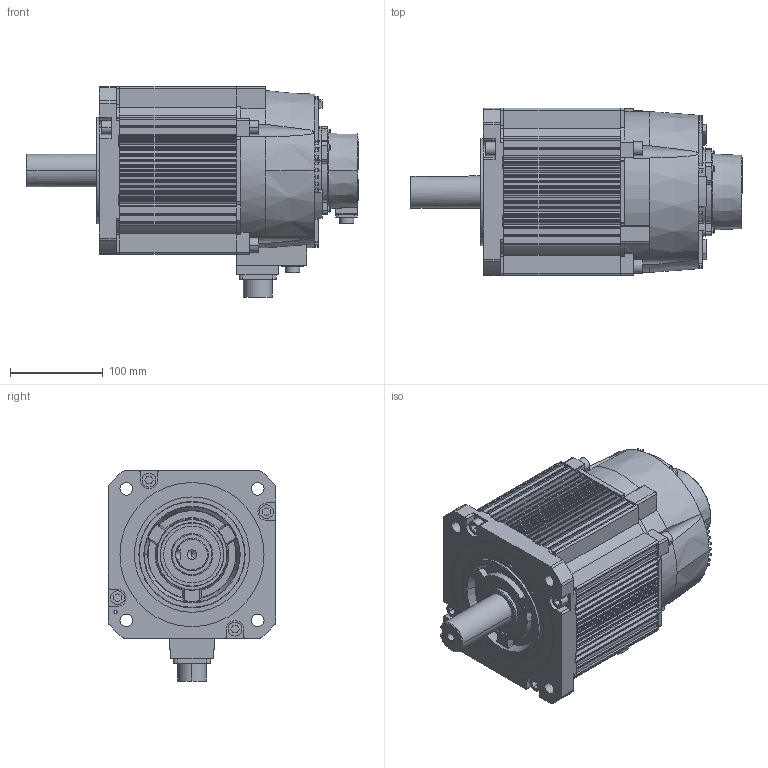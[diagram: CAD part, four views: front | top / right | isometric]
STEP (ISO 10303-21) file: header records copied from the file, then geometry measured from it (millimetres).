
FILE_DESCRIPTION (( 'STEP AP203' ), '1' );
FILE_NAME ('28415.STEP', '2024-09-05T10:59:59', ( '' ), ( '' ), 'SwSTEP 2.0', 'SolidWorks 2018', '' );
FILE_SCHEMA (( 'CONFIG_CONTROL_DESIGN' ));
Length unit declared in the file: millimetre
Products named in the file (10): 28.4N.M儂褲 - 萵掛 (2) - 萵掛; SC-CMV1-R10P-E; 惕掅綴裔; CMS3102A22-22P-Z; SC-CMV1-R2P-E; 18.6,28.4N.M蛌粣; 蚐猾; 橈勤硉晤鎢ん誘欶  S13E.10-01; ヶ裔; 28415
Assembly tree (9 placements, depth 2):
  28415
    18.6,28.4N.M蛌粣
    CMS3102A22-22P-Z
    SC-CMV1-R10P-E
    SC-CMV1-R2P-E
    惕掅綴裔
    ヶ裔
    蚐猾
    28.4N.M儂褲 - 萵掛 (2) - 萵掛
    橈勤硉晤鎢ん誘欶  S13E.10-01
Bounding box: 357 x 180 x 226 mm (x, y, z)
Volume: 2769296.9 mm3; surface area: 628541.4 mm2
Topology: 9 solids, 13 shells, 1856 faces, 5050 edges, 3276 vertices
Faces by surface type: plane 900, cylinder 806, cone 65, torus 59, bspline 14, sphere 12
Entity records: 61175 total; most frequent: CARTESIAN_POINT 11962, DIRECTION 10491, ORIENTED_EDGE 9980, EDGE_CURVE 4990, AXIS2_PLACEMENT_3D 3781, VERTEX_POINT 3264, VECTOR 2929, LINE 2929
